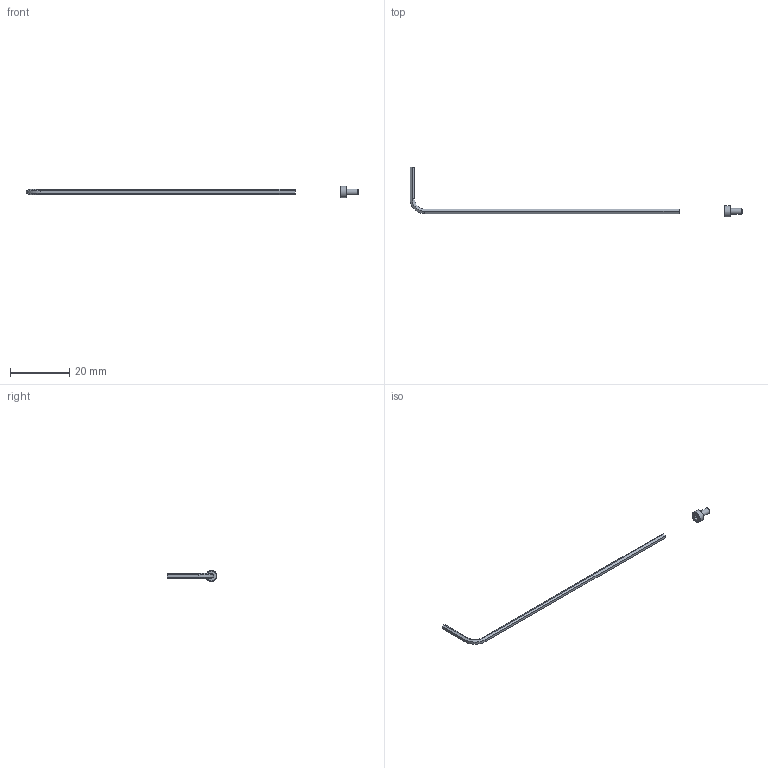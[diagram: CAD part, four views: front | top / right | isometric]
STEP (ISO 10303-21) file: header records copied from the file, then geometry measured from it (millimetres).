
FILE_DESCRIPTION(/* description */ (''),/* implementation_level */ '2;1');
FILE_NAME(/* name */ 'T:\CAD\Standard\AC\G-AC063\3D ZG-AC063-IN2-SF1.stp',/* time_stamp */ '2023-07-12T14:49:02+02:00',/* author */ ('vbednarz'),/* organization */ (''),/* preprocessor_version */ 'ST-DEVELOPER v17',/* originating_system */ 'Autodesk Inventor 2018',/* authorisation */ '');
FILE_SCHEMA (('AUTOMOTIVE_DESIGN { 1 0 10303 214 3 1 1 }'));
Length unit declared in the file: millimetre
Products named in the file (1): 3D ZG-AC063-IN2-SF1.step
Bounding box: 112.31 x 16.9 x 3.8 mm (x, y, z)
Volume: 234.2 mm3; surface area: 616.4 mm2
Topology: 2 solids, 2 shells, 35 faces, 83 edges, 53 vertices
Faces by surface type: plane 23, cone 6, cylinder 4, torus 2
Full cylindrical faces by diameter (mm): 2 x1, 3.8 x1
Entity records: 1052 total; most frequent: CARTESIAN_POINT 185, DIRECTION 170, ORIENTED_EDGE 164, EDGE_CURVE 82, AXIS2_PLACEMENT_3D 59, VERTEX_POINT 53, LINE 52, VECTOR 52
